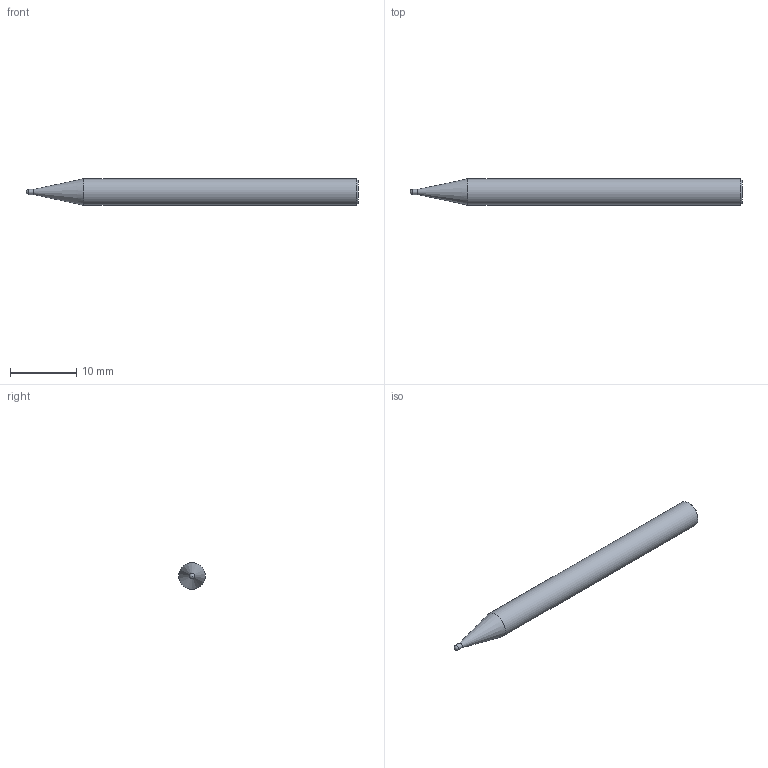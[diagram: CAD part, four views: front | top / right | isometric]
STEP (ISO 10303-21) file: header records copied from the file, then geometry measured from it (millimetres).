
FILE_DESCRIPTION(/* description */ (''),/* implementation_level */ '2;1');
FILE_NAME(/* name */ 'HSXB2008 0450.stp',/* time_stamp */ '2026-08-01T14:40:33+08:00',/* author */ (''),/* organization */ (''),/* preprocessor_version */ 'ST-DEVELOPER v16',/* originating_system */ 'SIEMENS PLM Software NX 10.0',/* authorisation */ '');
FILE_SCHEMA (('CONFIG_CONTROL_DESIGN'));
Length unit declared in the file: millimetre
Products named in the file (1): HSXB2008 0450_dxf
Bounding box: 50 x 4 x 4 mm (x, y, z)
Volume: 558 mm3; surface area: 590.7 mm2
Topology: 1 solids, 1 shells, 6 faces, 12 edges, 7 vertices
Faces by surface type: cylinder 2, cone 2, plane 1, sphere 1
Full cylindrical faces by diameter (mm): 0.8 x1, 4 x1
Entity records: 198 total; most frequent: DIRECTION 24, CARTESIAN_POINT 17, AXIS2_PLACEMENT_3D 12, EDGE_LOOP 10, ORIENTED_EDGE 10, FACE_BOUND 8, PERSON_AND_ORGANIZATION 7, ORGANIZATION 7
